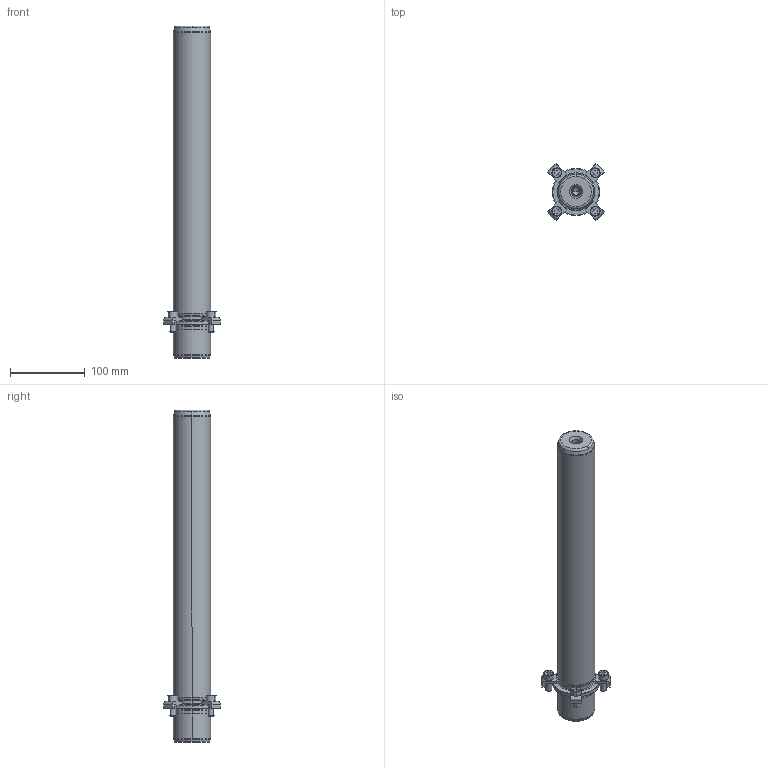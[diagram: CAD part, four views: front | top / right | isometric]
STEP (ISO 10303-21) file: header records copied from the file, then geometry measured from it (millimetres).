
FILE_DESCRIPTION((''),'2;1');
FILE_NAME('P21_050_400.stp','2008-12-23T13:45:59',(''),(''),'Mechanical Desktop 2009','Mechanical Desktop 2009',', , ');
FILE_SCHEMA(('CONFIG_CONTROL_DESIGN'));
Length unit declared in the file: millimetre
Products named in the file (2): Product; blmdl1
Assembly tree (1 placements, depth 2):
  Product
    blmdl1
Bounding box: 76.01 x 76.01 x 445 mm (x, y, z)
Volume: 881925.1 mm3; surface area: 87269.2 mm2
Topology: 9 solids, 9 shells, 195 faces, 477 edges, 309 vertices
Faces by surface type: plane 77, cylinder 52, cone 34, torus 16, bspline 16
Entity records: 6547 total; most frequent: CARTESIAN_POINT 1683, DIRECTION 1078, ORIENTED_EDGE 946, EDGE_CURVE 473, AXIS2_PLACEMENT_3D 424, VERTEX_POINT 309, CIRCLE 243, VECTOR 230
